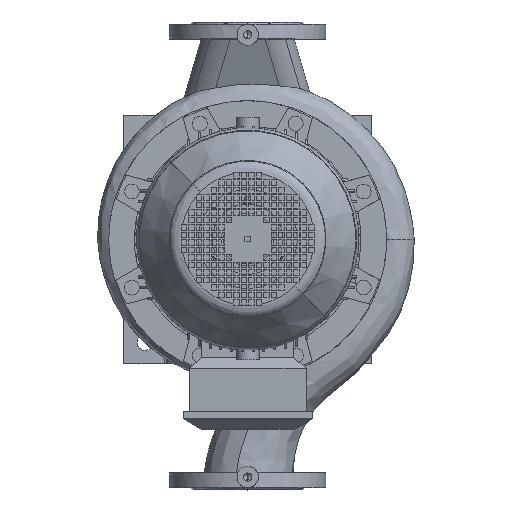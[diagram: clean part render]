
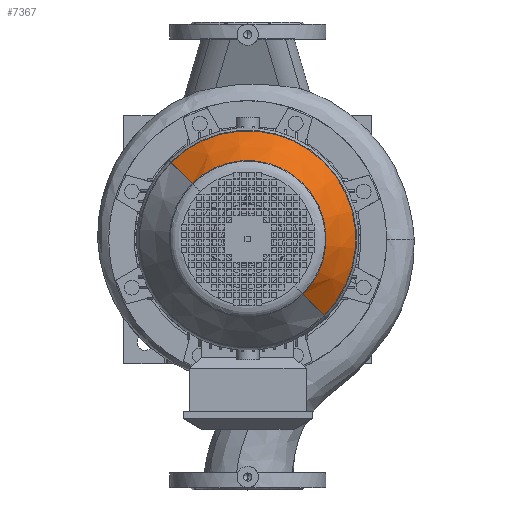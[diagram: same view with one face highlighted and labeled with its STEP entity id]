
A CAD part, top view. The second image highlights one B-rep face of the part: STEP entity #7367.
In plain terms, the highlighted conical face has half-angle 34.992 degrees and reference radius 104.5 mm.
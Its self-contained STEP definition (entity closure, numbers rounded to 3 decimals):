
#7367=ADVANCED_FACE('',(#18532),#18533,.T.);
#9063=EDGE_CURVE('',#21470,#21471,#21472,.T.);
#9065=EDGE_CURVE('',#21474,#21475,#21476,.T.);
#18532=FACE_OUTER_BOUND('',#35211,.T.);
#18533=CONICAL_SURFACE('',#35212,104.5,0.611);
#21470=VERTEX_POINT('',#38153);
#21471=VERTEX_POINT('',#38154);
#21472=CIRCLE('',#38155,153.385);
#21474=VERTEX_POINT('',#38158);
#21475=VERTEX_POINT('',#38159);
#21476=CIRCLE('',#38160,110.472);
#35211=EDGE_LOOP('',(#61858,#61859,#61860,#61861));
#35212=AXIS2_PLACEMENT_3D('',#61862,#61863,#61864);
#38153=CARTESIAN_POINT('',(153.385,0.,93.165));
#38154=CARTESIAN_POINT('',(-153.385,0.,93.165));
#38155=AXIS2_PLACEMENT_3D('',#70462,#70463,#70464);
#38158=CARTESIAN_POINT('',(-110.472,0.,154.469));
#38159=CARTESIAN_POINT('',(110.472,0.,154.469));
#38160=AXIS2_PLACEMENT_3D('',#70465,#70466,#70467);
#61858=ORIENTED_EDGE('',*,*,#78070,.F.);
#61859=ORIENTED_EDGE('',*,*,#9063,.F.);
#61860=ORIENTED_EDGE('',*,*,#78071,.F.);
#61861=ORIENTED_EDGE('',*,*,#9065,.F.);
#61862=CARTESIAN_POINT('',(0.0,0.,163.0));
#61863=DIRECTION('',(-0.0,-0.0,-1.0));
#61864=DIRECTION('',(-1.0,0.,0.0));
#70462=CARTESIAN_POINT('',(0.0,0.,93.165));
#70463=DIRECTION('',(-0.0,0.0,-1.0));
#70464=DIRECTION('',(-1.0,0.,0.0));
#70465=CARTESIAN_POINT('',(0.,0.,154.469));
#70466=DIRECTION('',(0.0,0.0,1.0));
#70467=DIRECTION('',(-1.0,0.,0.0));
#78070=EDGE_CURVE('',#21471,#21474,#83072,.T.);
#78071=EDGE_CURVE('',#21475,#21470,#83073,.T.);
#83072=LINE('',#93989,#93990);
#83073=LINE('',#93991,#93992);
#93989=CARTESIAN_POINT('',(-104.5,0.,163.0));
#93990=VECTOR('',#99921,1.0);
#93991=CARTESIAN_POINT('',(104.5,0.,163.0));
#93992=VECTOR('',#99922,1.0);
#99921=DIRECTION('',(0.573,0.,0.819));
#99922=DIRECTION('',(0.573,0.,-0.819));
